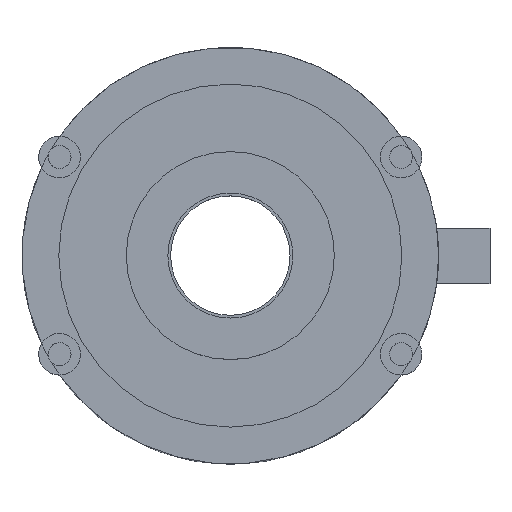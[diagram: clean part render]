
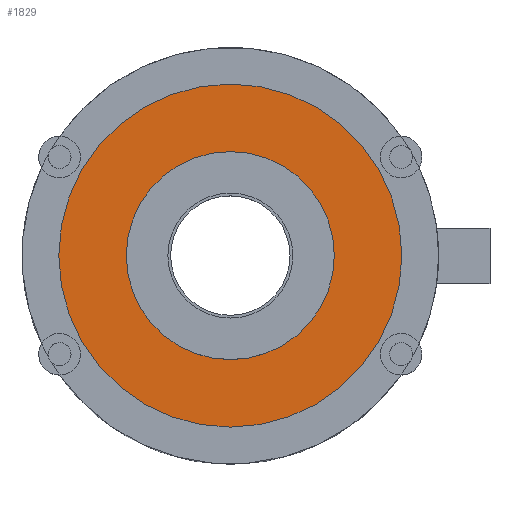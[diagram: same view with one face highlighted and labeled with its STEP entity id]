
A CAD part, top view. The second image highlights one B-rep face of the part: STEP entity #1829.
In plain terms, the highlighted planar face has unit normal (0, 0, 1).
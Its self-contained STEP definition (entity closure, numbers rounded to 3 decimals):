
#124 = PLANE('',#125);
#125 = AXIS2_PLACEMENT_3D('',#126,#127,#128);
#126 = CARTESIAN_POINT('',(0.,0.,1.5));
#127 = DIRECTION('',(0.,0.,1.));
#128 = DIRECTION('',(1.,0.,-0.));
#541 = EDGE_CURVE('',#542,#542,#544,.T.);
#542 = VERTEX_POINT('',#543);
#543 = CARTESIAN_POINT('',(12.35,0.,1.5));
#544 = SURFACE_CURVE('',#545,(#550,#557),.PCURVE_S1.);
#545 = CIRCLE('',#546,12.35);
#546 = AXIS2_PLACEMENT_3D('',#547,#548,#549);
#547 = CARTESIAN_POINT('',(0.,0.,1.5));
#548 = DIRECTION('',(0.,0.,1.));
#549 = DIRECTION('',(1.,0.,-0.));
#550 = PCURVE('',#124,#551);
#551 = DEFINITIONAL_REPRESENTATION('',(#552),#556);
#552 = CIRCLE('',#553,12.35);
#553 = AXIS2_PLACEMENT_2D('',#554,#555);
#554 = CARTESIAN_POINT('',(0.,0.));
#555 = DIRECTION('',(1.,0.));
#556 = ( GEOMETRIC_REPRESENTATION_CONTEXT(2) 
PARAMETRIC_REPRESENTATION_CONTEXT() REPRESENTATION_CONTEXT('2D SPACE',''
  ) );
#557 = PCURVE('',#558,#563);
#558 = PLANE('',#559);
#559 = AXIS2_PLACEMENT_3D('',#560,#561,#562);
#560 = CARTESIAN_POINT('',(0.,0.,1.5));
#561 = DIRECTION('',(0.,0.,1.));
#562 = DIRECTION('',(1.,0.,-0.));
#563 = DEFINITIONAL_REPRESENTATION('',(#564),#568);
#564 = CIRCLE('',#565,12.35);
#565 = AXIS2_PLACEMENT_2D('',#566,#567);
#566 = CARTESIAN_POINT('',(0.,0.));
#567 = DIRECTION('',(1.,0.));
#568 = ( GEOMETRIC_REPRESENTATION_CONTEXT(2) 
PARAMETRIC_REPRESENTATION_CONTEXT() REPRESENTATION_CONTEXT('2D SPACE',''
  ) );
#1829 = ADVANCED_FACE('',(#1830,#1833),#558,.T.);
#1830 = FACE_BOUND('',#1831,.T.);
#1831 = EDGE_LOOP('',(#1832));
#1832 = ORIENTED_EDGE('',*,*,#541,.T.);
#1833 = FACE_BOUND('',#1834,.T.);
#1834 = EDGE_LOOP('',(#1835));
#1835 = ORIENTED_EDGE('',*,*,#1836,.F.);
#1836 = EDGE_CURVE('',#1837,#1837,#1839,.T.);
#1837 = VERTEX_POINT('',#1838);
#1838 = CARTESIAN_POINT('',(7.49,0.,1.5));
#1839 = SURFACE_CURVE('',#1840,(#1845,#1852),.PCURVE_S1.);
#1840 = CIRCLE('',#1841,7.49);
#1841 = AXIS2_PLACEMENT_3D('',#1842,#1843,#1844);
#1842 = CARTESIAN_POINT('',(0.,0.,1.5));
#1843 = DIRECTION('',(0.,0.,1.));
#1844 = DIRECTION('',(1.,0.,-0.));
#1845 = PCURVE('',#558,#1846);
#1846 = DEFINITIONAL_REPRESENTATION('',(#1847),#1851);
#1847 = CIRCLE('',#1848,7.49);
#1848 = AXIS2_PLACEMENT_2D('',#1849,#1850);
#1849 = CARTESIAN_POINT('',(0.,0.));
#1850 = DIRECTION('',(1.,0.));
#1851 = ( GEOMETRIC_REPRESENTATION_CONTEXT(2) 
PARAMETRIC_REPRESENTATION_CONTEXT() REPRESENTATION_CONTEXT('2D SPACE',''
  ) );
#1852 = PCURVE('',#1853,#1858);
#1853 = CYLINDRICAL_SURFACE('',#1854,7.49);
#1854 = AXIS2_PLACEMENT_3D('',#1855,#1856,#1857);
#1855 = CARTESIAN_POINT('',(0.,0.,1.5));
#1856 = DIRECTION('',(0.,0.,1.));
#1857 = DIRECTION('',(1.,0.,-0.));
#1858 = DEFINITIONAL_REPRESENTATION('',(#1859),#1863);
#1859 = LINE('',#1860,#1861);
#1860 = CARTESIAN_POINT('',(0.,0.));
#1861 = VECTOR('',#1862,1.);
#1862 = DIRECTION('',(1.,0.));
#1863 = ( GEOMETRIC_REPRESENTATION_CONTEXT(2) 
PARAMETRIC_REPRESENTATION_CONTEXT() REPRESENTATION_CONTEXT('2D SPACE',''
  ) );
